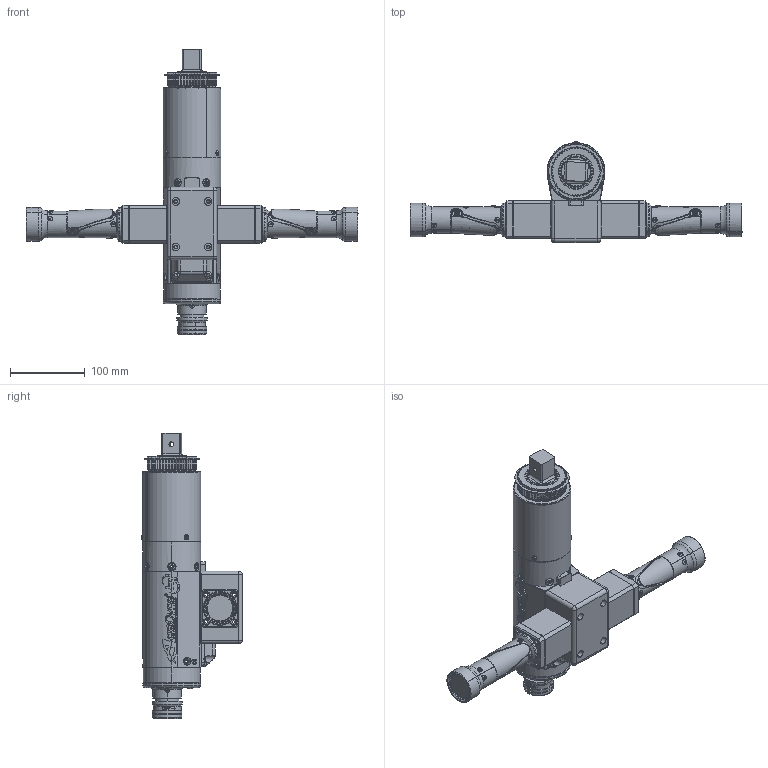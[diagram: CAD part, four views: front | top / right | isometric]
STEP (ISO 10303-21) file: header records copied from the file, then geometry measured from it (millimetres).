
FILE_DESCRIPTION (( 'STEP AP214' ), '1' );
FILE_NAME ('AEF4B771200BDL.STEP', '2016-08-23T17:44:25', ( 'AIMCO' ), ( '' ), 'SwSTEP 2.0', 'SolidWorks 2016', '' );
FILE_SCHEMA (( 'AUTOMOTIVE_DESIGN' ));
Length unit declared in the file: inch
Products named in the file (1): AEF4B771200BDL
Bounding box: 443.84 x 135.01 x 381.57 mm (x, y, z)
Surface area: 268009.3 mm2 (no closed solid volume)
Topology: 0 solids, 167 shells, 1678 faces, 6458 edges, 4702 vertices
Faces by surface type: cylinder 538, plane 496, cone 214, bspline 209, torus 205, sphere 16
Entity records: 152461 total; most frequent: CARTESIAN_POINT 81688, ORIENTED_EDGE 9630, DIRECTION 9082, EDGE_CURVE 6452, VERTEX_POINT 4702, AXIS2_PLACEMENT_3D 3422, LINE 2238, VECTOR 2238
